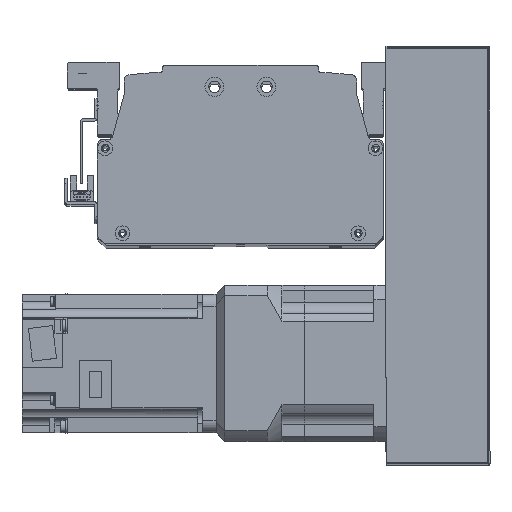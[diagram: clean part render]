
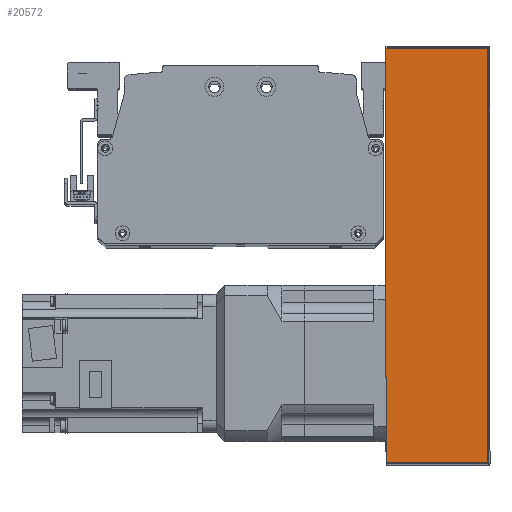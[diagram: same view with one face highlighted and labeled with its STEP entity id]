
A CAD part, top view. The second image highlights one B-rep face of the part: STEP entity #20572.
In plain terms, the highlighted planar face has unit normal (0, 0, 1) as drawn and (0, 1, 0) by its records, which use the part's own axes.
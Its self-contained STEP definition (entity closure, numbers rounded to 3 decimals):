
#550=PLANE('',#22408);
#1681=LINE('',#32681,#3341);
#1700=LINE('',#32765,#3360);
#1702=LINE('',#32775,#3362);
#1703=LINE('',#32777,#3363);
#3341=VECTOR('',#26570,10.);
#3360=VECTOR('',#26683,10.);
#3362=VECTOR('',#26697,10.);
#3363=VECTOR('',#26700,10.);
#5331=FACE_OUTER_BOUND('',#6743,.T.);
#6743=EDGE_LOOP('',(#16144,#16145,#16146,#16147));
#9591=VERTEX_POINT('',#32678);
#9592=VERTEX_POINT('',#32680);
#9609=VERTEX_POINT('',#32759);
#9612=VERTEX_POINT('',#32771);
#11939=EDGE_CURVE('',#9592,#9591,#1681,.T.);
#11982=EDGE_CURVE('',#9609,#9592,#1700,.T.);
#11987=EDGE_CURVE('',#9591,#9612,#1702,.T.);
#11988=EDGE_CURVE('',#9612,#9609,#1703,.T.);
#16144=ORIENTED_EDGE('',*,*,#11982,.T.);
#16145=ORIENTED_EDGE('',*,*,#11939,.T.);
#16146=ORIENTED_EDGE('',*,*,#11987,.T.);
#16147=ORIENTED_EDGE('',*,*,#11988,.T.);
#20572=ADVANCED_FACE('',(#5331),#550,.F.);
#22408=AXIS2_PLACEMENT_3D('',#32784,#26709,#26710);
#26570=DIRECTION('',(-1.,0.,0.));
#26683=DIRECTION('',(0.,0.,-1.));
#26697=DIRECTION('',(0.,0.,1.));
#26700=DIRECTION('',(1.,0.,0.));
#26709=DIRECTION('center_axis',(0.,-1.,0.));
#26710=DIRECTION('ref_axis',(-1.,0.,0.));
#32678=CARTESIAN_POINT('',(-120.,51.,-30.));
#32680=CARTESIAN_POINT('',(120.,51.,-30.));
#32681=CARTESIAN_POINT('',(-121.,51.,-30.));
#32759=CARTESIAN_POINT('',(120.,51.,29.));
#32765=CARTESIAN_POINT('',(120.,51.,0.));
#32771=CARTESIAN_POINT('',(-120.,51.,29.));
#32775=CARTESIAN_POINT('',(-120.,51.,0.));
#32777=CARTESIAN_POINT('',(60.5,51.,29.));
#32784=CARTESIAN_POINT('Origin',(121.,51.,0.));
